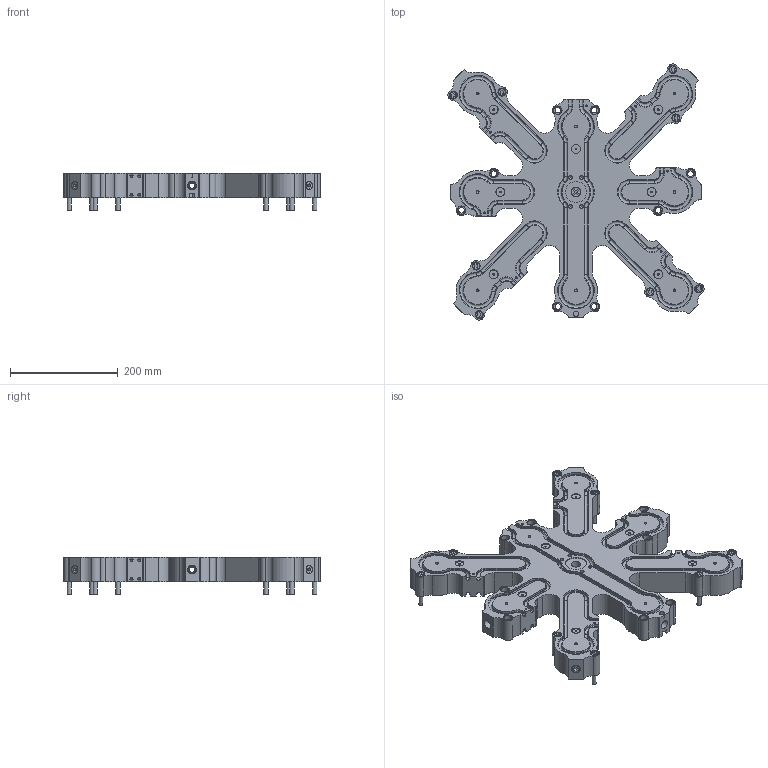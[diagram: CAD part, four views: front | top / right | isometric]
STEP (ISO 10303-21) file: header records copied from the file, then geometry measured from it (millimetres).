
FILE_DESCRIPTION(('STEP AP214'),'1');
FILE_NAME('S:/PROIECTE_YUDO_2012/PROIECTE YUDO 2012 2D/YUDO CZECH/YUCZ 2012-9B/MANIFOLD.step','2012-02-22T08:42:40',(' '),(' '),'Spatial InterOp 3D',' ',' ');
FILE_SCHEMA(('automotive_design'));
Length unit declared in the file: millimetre
Products named in the file (17): Manifold Block X Type; End_plug; Stop_bolt; Bolt M08
Bounding box: 475.86 x 475.87 x 69 mm (x, y, z)
Volume: 4951017.6 mm3; surface area: 622176.6 mm2
Topology: 17 solids, 17 shells, 1169 faces, 3109 edges, 2027 vertices
Faces by surface type: plane 437, cylinder 352, cone 273, torus 98, sphere 8, bspline 1
Full cylindrical faces by diameter (mm): 3.3 x28, 5 x24, 6.75 x8, 8 x16, 10 x24, 10.5 x12, 13 x8, 14 x12, 15 x17, 16 x19, 18 x1, 39 x1
Entity records: 44715 total; most frequent: DIRECTION 6484, CARTESIAN_POINT 6134, ORIENTED_EDGE 5548, EDGE_CURVE 2774, AXIS2_PLACEMENT_3D 2545, VERTEX_POINT 1975, EDGE_LOOP 1539, LINE 1394
